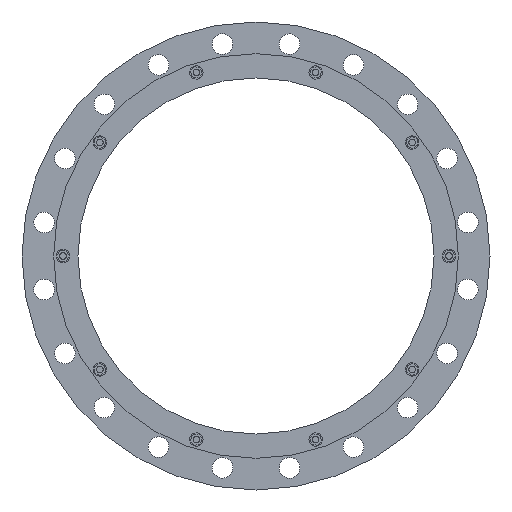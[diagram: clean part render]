
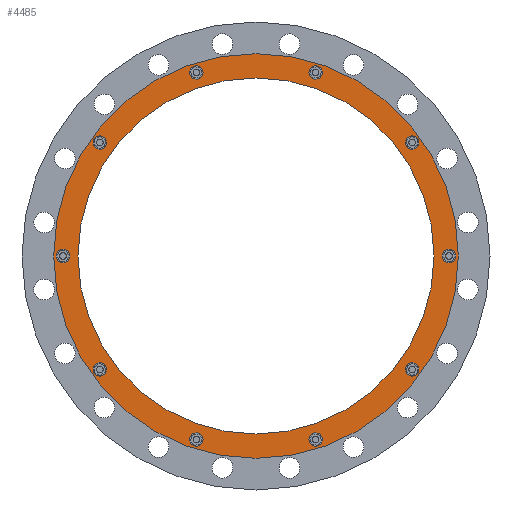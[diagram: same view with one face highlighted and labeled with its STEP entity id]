
A CAD part, front view. The second image highlights one B-rep face of the part: STEP entity #4485.
In plain terms, the highlighted planar face has unit normal (0, -1, 0).
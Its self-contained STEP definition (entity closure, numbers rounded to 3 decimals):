
#1108=CARTESIAN_POINT('',(0.,-94.452,0.));
#1109=DIRECTION('',(0.,-1.,0.));
#1110=DIRECTION('',(1.,0.,0.));
#1111=AXIS2_PLACEMENT_3D('',#1108,#1109,#1110);
#1113=CARTESIAN_POINT('',(0.,-94.452,0.));
#1114=DIRECTION('',(0.,1.,0.));
#1115=DIRECTION('',(1.,0.,0.));
#1116=AXIS2_PLACEMENT_3D('',#1113,#1114,#1115);
#1118=CARTESIAN_POINT('',(346.5,-94.452,0.));
#1119=DIRECTION('',(0.,-1.,0.));
#1120=DIRECTION('',(0.,0.,-1.));
#1121=AXIS2_PLACEMENT_3D('',#1118,#1119,#1120);
#1123=CARTESIAN_POINT('',(346.5,-94.452,0.));
#1124=DIRECTION('',(0.,-1.,0.));
#1125=DIRECTION('',(0.,0.,1.));
#1126=AXIS2_PLACEMENT_3D('',#1123,#1124,#1125);
#1128=CARTESIAN_POINT('',(280.324,-94.452,203.668));
#1129=DIRECTION('',(0.,-1.,0.));
#1130=DIRECTION('',(0.588,0.,-0.809));
#1131=AXIS2_PLACEMENT_3D('',#1128,#1129,#1130);
#1133=CARTESIAN_POINT('',(280.324,-94.452,203.668));
#1134=DIRECTION('',(0.,-1.,0.));
#1135=DIRECTION('',(-0.588,0.,0.809));
#1136=AXIS2_PLACEMENT_3D('',#1133,#1134,#1135);
#1138=CARTESIAN_POINT('',(107.074,-94.452,329.541));
#1139=DIRECTION('',(0.,-1.,0.));
#1140=DIRECTION('',(0.951,0.,-0.309));
#1141=AXIS2_PLACEMENT_3D('',#1138,#1139,#1140);
#1143=CARTESIAN_POINT('',(107.074,-94.452,329.541));
#1144=DIRECTION('',(0.,-1.,0.));
#1145=DIRECTION('',(-0.951,0.,0.309));
#1146=AXIS2_PLACEMENT_3D('',#1143,#1144,#1145);
#1148=CARTESIAN_POINT('',(-107.074,-94.452,329.541));
#1149=DIRECTION('',(0.,-1.,0.));
#1150=DIRECTION('',(0.951,0.,0.309));
#1151=AXIS2_PLACEMENT_3D('',#1148,#1149,#1150);
#1153=CARTESIAN_POINT('',(-107.074,-94.452,329.541));
#1154=DIRECTION('',(0.,-1.,0.));
#1155=DIRECTION('',(-0.951,0.,-0.309));
#1156=AXIS2_PLACEMENT_3D('',#1153,#1154,#1155);
#1158=CARTESIAN_POINT('',(-280.324,-94.452,203.668));
#1159=DIRECTION('',(0.,-1.,0.));
#1160=DIRECTION('',(0.588,0.,0.809));
#1161=AXIS2_PLACEMENT_3D('',#1158,#1159,#1160);
#1163=CARTESIAN_POINT('',(-280.324,-94.452,203.668));
#1164=DIRECTION('',(0.,-1.,0.));
#1165=DIRECTION('',(-0.588,0.,-0.809));
#1166=AXIS2_PLACEMENT_3D('',#1163,#1164,#1165);
#1168=CARTESIAN_POINT('',(-346.5,-94.452,0.));
#1169=DIRECTION('',(0.,-1.,0.));
#1170=DIRECTION('',(0.,0.,1.));
#1171=AXIS2_PLACEMENT_3D('',#1168,#1169,#1170);
#1173=CARTESIAN_POINT('',(-346.5,-94.452,0.));
#1174=DIRECTION('',(0.,-1.,0.));
#1175=DIRECTION('',(0.,0.,-1.));
#1176=AXIS2_PLACEMENT_3D('',#1173,#1174,#1175);
#1178=CARTESIAN_POINT('',(-280.324,-94.452,-203.668));
#1179=DIRECTION('',(0.,-1.,0.));
#1180=DIRECTION('',(-0.588,0.,0.809));
#1181=AXIS2_PLACEMENT_3D('',#1178,#1179,#1180);
#1183=CARTESIAN_POINT('',(-280.324,-94.452,-203.668));
#1184=DIRECTION('',(0.,-1.,0.));
#1185=DIRECTION('',(0.588,0.,-0.809));
#1186=AXIS2_PLACEMENT_3D('',#1183,#1184,#1185);
#1188=CARTESIAN_POINT('',(-107.074,-94.452,-329.541));
#1189=DIRECTION('',(0.,-1.,0.));
#1190=DIRECTION('',(-0.951,0.,0.309));
#1191=AXIS2_PLACEMENT_3D('',#1188,#1189,#1190);
#1193=CARTESIAN_POINT('',(-107.074,-94.452,-329.541));
#1194=DIRECTION('',(0.,-1.,0.));
#1195=DIRECTION('',(0.951,0.,-0.309));
#1196=AXIS2_PLACEMENT_3D('',#1193,#1194,#1195);
#1198=CARTESIAN_POINT('',(107.074,-94.452,-329.541));
#1199=DIRECTION('',(0.,-1.,0.));
#1200=DIRECTION('',(-0.951,0.,-0.309));
#1201=AXIS2_PLACEMENT_3D('',#1198,#1199,#1200);
#1203=CARTESIAN_POINT('',(107.074,-94.452,-329.541));
#1204=DIRECTION('',(0.,-1.,0.));
#1205=DIRECTION('',(0.951,0.,0.309));
#1206=AXIS2_PLACEMENT_3D('',#1203,#1204,#1205);
#1208=CARTESIAN_POINT('',(280.324,-94.452,-203.668));
#1209=DIRECTION('',(0.,-1.,0.));
#1210=DIRECTION('',(-0.588,0.,-0.809));
#1211=AXIS2_PLACEMENT_3D('',#1208,#1209,#1210);
#1213=CARTESIAN_POINT('',(280.324,-94.452,-203.668));
#1214=DIRECTION('',(0.,-1.,0.));
#1215=DIRECTION('',(0.588,0.,0.809));
#1216=AXIS2_PLACEMENT_3D('',#1213,#1214,#1215);
#1218=CARTESIAN_POINT('',(0.,-94.452,0.));
#1219=DIRECTION('',(0.,1.,0.));
#1220=DIRECTION('',(1.,0.,0.));
#1221=AXIS2_PLACEMENT_3D('',#1218,#1219,#1220);
#1231=CARTESIAN_POINT('',(0.,-94.452,0.));
#1232=DIRECTION('',(0.,-1.,0.));
#1233=DIRECTION('',(1.,0.,0.));
#1234=AXIS2_PLACEMENT_3D('',#1231,#1232,#1233);
#2983=CARTESIAN_POINT('',(363.1,-94.452,0.));
#2985=VERTEX_POINT('',#2983);
#2986=CARTESIAN_POINT('',(319.5,-94.452,0.));
#2988=VERTEX_POINT('',#2986);
#2995=CARTESIAN_POINT('',(-363.1,-94.452,0.));
#2997=VERTEX_POINT('',#2995);
#2998=CARTESIAN_POINT('',(-319.5,-94.452,0.));
#3000=VERTEX_POINT('',#2998);
#3037=CARTESIAN_POINT('',(346.5,-94.452,-12.));
#3038=CARTESIAN_POINT('',(346.5,-94.452,12.));
#3039=VERTEX_POINT('',#3037);
#3040=VERTEX_POINT('',#3038);
#3086=CARTESIAN_POINT('',(287.378,-94.452,193.959));
#3087=VERTEX_POINT('',#3086);
#3088=CARTESIAN_POINT('',(273.271,-94.452,213.376));
#3089=VERTEX_POINT('',#3088);
#3130=CARTESIAN_POINT('',(118.487,-94.452,325.833));
#3131=VERTEX_POINT('',#3130);
#3132=CARTESIAN_POINT('',(95.662,-94.452,333.249));
#3133=VERTEX_POINT('',#3132);
#3174=CARTESIAN_POINT('',(-95.662,-94.452,333.249));
#3175=VERTEX_POINT('',#3174);
#3176=CARTESIAN_POINT('',(-118.487,-94.452,325.833));
#3177=VERTEX_POINT('',#3176);
#3218=CARTESIAN_POINT('',(-273.271,-94.452,213.376));
#3219=VERTEX_POINT('',#3218);
#3220=CARTESIAN_POINT('',(-287.378,-94.452,193.959));
#3221=VERTEX_POINT('',#3220);
#3262=CARTESIAN_POINT('',(-346.5,-94.452,12.));
#3263=VERTEX_POINT('',#3262);
#3264=CARTESIAN_POINT('',(-346.5,-94.452,-12.));
#3265=VERTEX_POINT('',#3264);
#3306=CARTESIAN_POINT('',(-287.378,-94.452,-193.959));
#3307=VERTEX_POINT('',#3306);
#3308=CARTESIAN_POINT('',(-273.271,-94.452,-213.376));
#3309=VERTEX_POINT('',#3308);
#3350=CARTESIAN_POINT('',(-118.487,-94.452,-325.833));
#3351=VERTEX_POINT('',#3350);
#3352=CARTESIAN_POINT('',(-95.662,-94.452,-333.249));
#3353=VERTEX_POINT('',#3352);
#3565=CARTESIAN_POINT('',(95.662,-94.452,-333.249));
#3566=VERTEX_POINT('',#3565);
#3567=CARTESIAN_POINT('',(118.487,-94.452,-325.833));
#3568=VERTEX_POINT('',#3567);
#3609=CARTESIAN_POINT('',(273.271,-94.452,-213.376));
#3610=VERTEX_POINT('',#3609);
#3611=CARTESIAN_POINT('',(287.378,-94.452,-193.959));
#3612=VERTEX_POINT('',#3611);
#4410=CARTESIAN_POINT('',(0.,-94.452,0.));
#4411=DIRECTION('',(0.,1.,0.));
#4412=DIRECTION('',(-1.,0.,0.));
#4413=AXIS2_PLACEMENT_3D('',#4410,#4411,#4412);
#4414=PLANE('',#4413);
#4416=ORIENTED_EDGE('',*,*,#4415,.F.);
#4418=ORIENTED_EDGE('',*,*,#4417,.T.);
#4419=EDGE_LOOP('',(#4416,#4418));
#4420=FACE_OUTER_BOUND('',#4419,.F.);
#4422=ORIENTED_EDGE('',*,*,#4421,.F.);
#4424=ORIENTED_EDGE('',*,*,#4423,.T.);
#4425=EDGE_LOOP('',(#4422,#4424));
#4426=FACE_BOUND('',#4425,.F.);
#4428=ORIENTED_EDGE('',*,*,#4427,.T.);
#4430=ORIENTED_EDGE('',*,*,#4429,.T.);
#4431=EDGE_LOOP('',(#4428,#4430));
#4432=FACE_BOUND('',#4431,.F.);
#4434=ORIENTED_EDGE('',*,*,#4433,.T.);
#4436=ORIENTED_EDGE('',*,*,#4435,.T.);
#4437=EDGE_LOOP('',(#4434,#4436));
#4438=FACE_BOUND('',#4437,.F.);
#4440=ORIENTED_EDGE('',*,*,#4439,.T.);
#4442=ORIENTED_EDGE('',*,*,#4441,.T.);
#4443=EDGE_LOOP('',(#4440,#4442));
#4444=FACE_BOUND('',#4443,.F.);
#4446=ORIENTED_EDGE('',*,*,#4445,.T.);
#4448=ORIENTED_EDGE('',*,*,#4447,.T.);
#4449=EDGE_LOOP('',(#4446,#4448));
#4450=FACE_BOUND('',#4449,.F.);
#4452=ORIENTED_EDGE('',*,*,#4451,.T.);
#4454=ORIENTED_EDGE('',*,*,#4453,.T.);
#4455=EDGE_LOOP('',(#4452,#4454));
#4456=FACE_BOUND('',#4455,.F.);
#4458=ORIENTED_EDGE('',*,*,#4457,.T.);
#4460=ORIENTED_EDGE('',*,*,#4459,.T.);
#4461=EDGE_LOOP('',(#4458,#4460));
#4462=FACE_BOUND('',#4461,.F.);
#4464=ORIENTED_EDGE('',*,*,#4463,.T.);
#4466=ORIENTED_EDGE('',*,*,#4465,.T.);
#4467=EDGE_LOOP('',(#4464,#4466));
#4468=FACE_BOUND('',#4467,.F.);
#4470=ORIENTED_EDGE('',*,*,#4469,.T.);
#4472=ORIENTED_EDGE('',*,*,#4471,.T.);
#4473=EDGE_LOOP('',(#4470,#4472));
#4474=FACE_BOUND('',#4473,.F.);
#4475=ORIENTED_EDGE('',*,*,#4392,.T.);
#4476=ORIENTED_EDGE('',*,*,#4403,.T.);
#4477=EDGE_LOOP('',(#4475,#4476));
#4478=FACE_BOUND('',#4477,.F.);
#4480=ORIENTED_EDGE('',*,*,#4479,.T.);
#4482=ORIENTED_EDGE('',*,*,#4481,.T.);
#4483=EDGE_LOOP('',(#4480,#4482));
#4484=FACE_BOUND('',#4483,.F.);
#4485=ADVANCED_FACE('',(#4420,#4426,#4432,#4438,#4444,#4450,#4456,#4462,#4468,
#4474,#4478,#4484),#4414,.F.);
#1112=CIRCLE('',#1111,363.1);
#1117=CIRCLE('',#1116,363.1);
#1122=CIRCLE('',#1121,12.);
#1127=CIRCLE('',#1126,12.);
#1132=CIRCLE('',#1131,12.);
#1137=CIRCLE('',#1136,12.);
#1142=CIRCLE('',#1141,12.);
#1147=CIRCLE('',#1146,12.);
#1152=CIRCLE('',#1151,12.);
#1157=CIRCLE('',#1156,12.);
#1162=CIRCLE('',#1161,12.);
#1167=CIRCLE('',#1166,12.);
#1172=CIRCLE('',#1171,12.);
#1177=CIRCLE('',#1176,12.);
#1182=CIRCLE('',#1181,12.);
#1187=CIRCLE('',#1186,12.);
#1192=CIRCLE('',#1191,12.);
#1197=CIRCLE('',#1196,12.);
#1202=CIRCLE('',#1201,12.);
#1207=CIRCLE('',#1206,12.);
#1212=CIRCLE('',#1211,12.);
#1217=CIRCLE('',#1216,12.);
#1222=CIRCLE('',#1221,319.5);
#1235=CIRCLE('',#1234,319.5);
#4392=EDGE_CURVE('',#3566,#3568,#1202,.T.);
#4403=EDGE_CURVE('',#3568,#3566,#1207,.T.);
#4415=EDGE_CURVE('',#2985,#2997,#1112,.T.);
#4417=EDGE_CURVE('',#2985,#2997,#1117,.T.);
#4421=EDGE_CURVE('',#2988,#3000,#1222,.T.);
#4423=EDGE_CURVE('',#2988,#3000,#1235,.T.);
#4427=EDGE_CURVE('',#3039,#3040,#1122,.T.);
#4429=EDGE_CURVE('',#3040,#3039,#1127,.T.);
#4433=EDGE_CURVE('',#3087,#3089,#1132,.T.);
#4435=EDGE_CURVE('',#3089,#3087,#1137,.T.);
#4439=EDGE_CURVE('',#3131,#3133,#1142,.T.);
#4441=EDGE_CURVE('',#3133,#3131,#1147,.T.);
#4445=EDGE_CURVE('',#3175,#3177,#1152,.T.);
#4447=EDGE_CURVE('',#3177,#3175,#1157,.T.);
#4451=EDGE_CURVE('',#3219,#3221,#1162,.T.);
#4453=EDGE_CURVE('',#3221,#3219,#1167,.T.);
#4457=EDGE_CURVE('',#3263,#3265,#1172,.T.);
#4459=EDGE_CURVE('',#3265,#3263,#1177,.T.);
#4463=EDGE_CURVE('',#3307,#3309,#1182,.T.);
#4465=EDGE_CURVE('',#3309,#3307,#1187,.T.);
#4469=EDGE_CURVE('',#3351,#3353,#1192,.T.);
#4471=EDGE_CURVE('',#3353,#3351,#1197,.T.);
#4479=EDGE_CURVE('',#3610,#3612,#1212,.T.);
#4481=EDGE_CURVE('',#3612,#3610,#1217,.T.);
